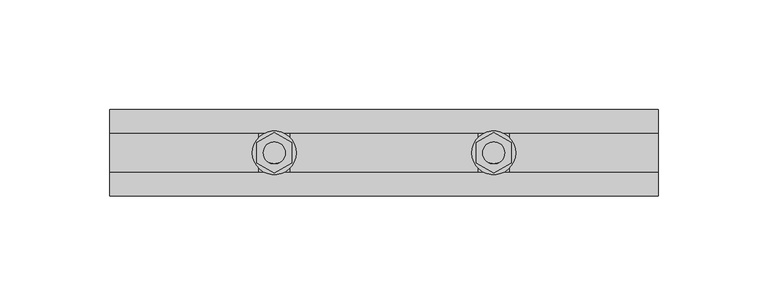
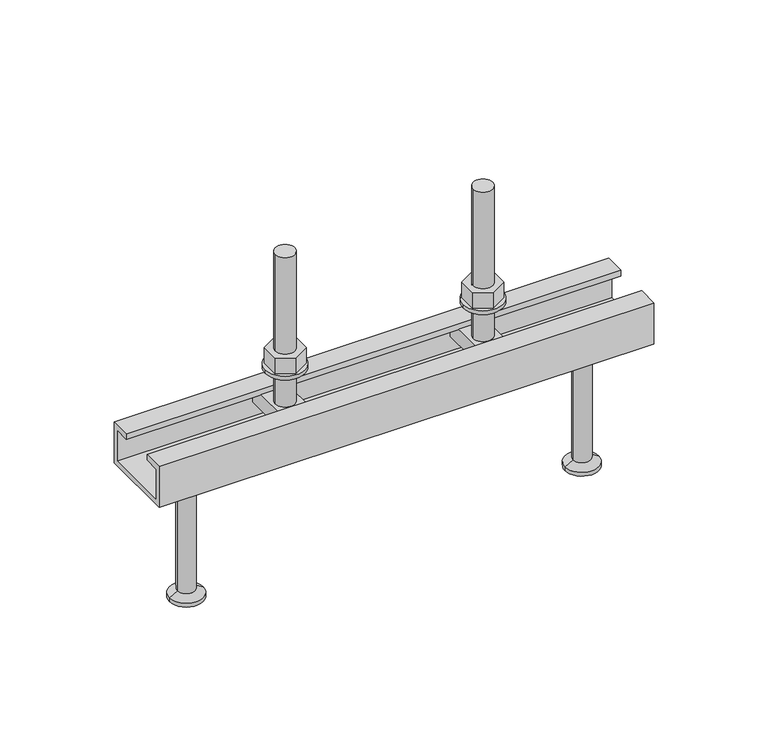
"""IFC4 building model written with IfcOpenShell, lengths in millimetres: fastener geometry, JTA-W JORDAHL® AnchorChannels : JTA-W L=250 mm."""

from ifc_helpers import new_model, si_unit, point, frame, frame_2d, origin, place, context, project, spatial, polyline, circle_curve, trimmed, segment, composite_curve, outline, extrude, source, transform, mapped, element, save
from ifc_brep_helpers import plane_surface, cylinder_surface, revolved_surface, advanced_brep


def fastener_1a17a586(model_context):
    return source(origin(), model_context, "Body", "SolidModel", [
        extrude(outline(polyline([(175.0, 9.2376043), (183.0, 4.6188022), (183.0, -4.6188022), (175.0, -9.2376043), (167.0, -4.6188022), (167.0, 4.6188022), (175.0, 9.2376043)]), holes=[composite_curve([segment(trimmed(circle_curve(frame_2d((175.0, 0.0)), 5.0), [point((170.0, 0.0))], [point((180.0, 0.0))], True, "CARTESIAN"), True, "CONTINUOUS"), segment(trimmed(circle_curve(frame_2d((175.0, 0.0)), 5.0), [point((180.0, 0.0))], [point((170.0, 0.0))], True, "CARTESIAN"), True, "CONTINUOUS")], self_intersect=False)]), frame((0.0, 0.0, 17.0), z_axis=(0.0, 0.0, 1.0), x_axis=(1.0, 0.0, 0.0)), (0.0, 0.0, 1.0), 8.4),
        extrude(outline(composite_curve([segment(trimmed(circle_curve(frame_2d((175.0, 0.0)), 10.0), [point((165.0, 0.0))], [point((185.0, 0.0))], False, "CARTESIAN"), True, "CONTINUOUS"), segment(trimmed(circle_curve(frame_2d((175.0, 0.0)), 10.0), [point((185.0, 0.0))], [point((165.0, 0.0))], False, "CARTESIAN"), True, "CONTINUOUS")], self_intersect=False), holes=[composite_curve([segment(trimmed(circle_curve(frame_2d((175.0, 0.0)), 5.25), [point((169.75, 0.0))], [point((180.25, 0.0))], True, "CARTESIAN"), True, "CONTINUOUS"), segment(trimmed(circle_curve(frame_2d((175.0, 0.0)), 5.25), [point((180.25, 0.0))], [point((169.75, 0.0))], True, "CARTESIAN"), True, "CONTINUOUS")], self_intersect=False)]), frame((0.0, 0.0, 15.0), z_axis=(0.0, 0.0, 1.0), x_axis=(1.0, 0.0, 0.0)), (0.0, 0.0, 1.0), 2.0),
        extrude(outline(polyline([(75.0, 9.2376043), (83.0, 4.6188022), (83.0, -4.6188022), (75.0, -9.2376043), (67.0, -4.6188022), (67.0, 4.6188022), (75.0, 9.2376043)]), holes=[composite_curve([segment(trimmed(circle_curve(frame_2d((75.0, 0.0)), 5.0), [point((70.0, 0.0))], [point((80.0, 0.0))], True, "CARTESIAN"), True, "CONTINUOUS"), segment(trimmed(circle_curve(frame_2d((75.0, 0.0)), 5.0), [point((80.0, 0.0))], [point((70.0, 0.0))], True, "CARTESIAN"), True, "CONTINUOUS")], self_intersect=False)]), frame((0.0, 0.0, 17.0), z_axis=(0.0, 0.0, 1.0), x_axis=(1.0, 0.0, 0.0)), (0.0, 0.0, 1.0), 8.4),
        extrude(outline(composite_curve([segment(trimmed(circle_curve(frame_2d((75.0, 0.0)), 10.0), [point((65.0, 0.0))], [point((85.0, 0.0))], False, "CARTESIAN"), True, "CONTINUOUS"), segment(trimmed(circle_curve(frame_2d((75.0, 0.0)), 10.0), [point((85.0, 0.0))], [point((65.0, 0.0))], False, "CARTESIAN"), True, "CONTINUOUS")], self_intersect=False), holes=[composite_curve([segment(trimmed(circle_curve(frame_2d((75.0, 0.0)), 5.25), [point((69.75, 0.0))], [point((80.25, 0.0))], True, "CARTESIAN"), True, "CONTINUOUS"), segment(trimmed(circle_curve(frame_2d((75.0, 0.0)), 5.25), [point((80.25, 0.0))], [point((69.75, 0.0))], True, "CARTESIAN"), True, "CONTINUOUS")], self_intersect=False)]), frame((0.0, 0.0, 15.0), z_axis=(0.0, 0.0, 1.0), x_axis=(1.0, 0.0, 0.0)), (0.0, 0.0, 1.0), 2.0),
        advanced_brep(
        [(182.0, 16.25, -3.0), (182.0, -16.25, -3.0), (182.0, -16.25, -11.0), (182.0, 16.25, -11.0), (168.0, 16.25, -3.0), (168.0, 16.25, -11.0), (168.0, -16.25, -11.0), (168.0, -16.25, -3.0), (180.0, 0.0, -3.0), (170.0, 0.0, -3.0), (170.0, 0.0, 77.0), (180.0, 0.0, 77.0)],
        [
            (0, 1),
            (1, 2),
            (2, 3),
            (3, 0),
            (4, 5),
            (5, 6),
            (6, 7),
            (7, 4),
            (0, 4),
            (7, 1),
            (8, 9, circle_curve(frame((175.0, 0.0, -3.0), z_axis=(0.0, 0.0, -1.0), x_axis=(1.0, 0.0, 0.0)), 5.0)),
            (9, 8, circle_curve(frame((175.0, 0.0, -3.0), z_axis=(0.0, 0.0, -1.0), x_axis=(1.0, 0.0, 0.0)), 5.0)),
            (6, 2),
            (5, 3),
            (10, 11, circle_curve(frame((175.0, 0.0, 77.0), z_axis=(0.0, 0.0, 1.0), x_axis=(1.0, 0.0, 0.0)), 5.0)),
            (11, 10, circle_curve(frame((175.0, 0.0, 77.0), z_axis=(0.0, 0.0, 1.0), x_axis=(1.0, 0.0, 0.0)), 5.0)),
            (10, 9),
            (8, 11),
        ],
        [
            plane_surface(frame((182.0, -16.25, -3.0), z_axis=(1.0, 0.0, 0.0), x_axis=(0.0, -1.0, 0.0))),
            plane_surface(frame((168.0, -16.25, -3.0), z_axis=(-1.0, 0.0, 0.0), x_axis=(0.0, 1.0, 0.0))),
            plane_surface(frame((182.0, 16.25, -3.0), z_axis=(0.0, 0.0, 1.0), x_axis=(-1.0, 0.0, 0.0))),
            plane_surface(frame((182.0, -16.25, -3.0), z_axis=(0.0, -1.0, 0.0), x_axis=(-1.0, 0.0, 0.0))),
            plane_surface(frame((182.0, -16.25, -11.0), z_axis=(0.0, 0.0, -1.0), x_axis=(-1.0, 0.0, 0.0))),
            plane_surface(frame((182.0, 16.25, -11.0), z_axis=(0.0, 1.0, 0.0), x_axis=(-1.0, 0.0, 0.0))),
            plane_surface(frame((180.0, 0.0, 77.0), z_axis=(0.0, 0.0, 1.0), x_axis=(0.0, 1.0, 0.0))),
            cylinder_surface(frame((175.0, 0.0, -3.0), z_axis=(0.0, 0.0, 1.0), x_axis=(1.0, 0.0, 0.0)), 5.0),
        ],
        [
            (0, [[1, 2, 3, 4]]),
            (1, [[5, 6, 7, 8]]),
            (2, [[-1, 9, -8, 10], [11, 12]]),
            (3, [[-2, -10, -7, 13]]),
            (4, [[-3, -13, -6, 14]]),
            (5, [[-4, -14, -5, -9]]),
            (6, [[15, 16]]),
            (7, [[-15, 17, -11, 18]]),
            (7, [[-16, -18, -12, -17]]),
        ],
    ),
        advanced_brep(
        [(82.0, 16.25, -3.0), (82.0, -16.25, -3.0), (82.0, -16.25, -11.0), (82.0, 16.25, -11.0), (68.0, 16.25, -3.0), (68.0, 16.25, -11.0), (68.0, -16.25, -11.0), (68.0, -16.25, -3.0), (80.0, 0.0, -3.0), (70.0, 0.0, -3.0), (70.0, 0.0, 77.0), (80.0, 0.0, 77.0)],
        [
            (0, 1),
            (1, 2),
            (2, 3),
            (3, 0),
            (4, 5),
            (5, 6),
            (6, 7),
            (7, 4),
            (0, 4),
            (7, 1),
            (8, 9, circle_curve(frame((75.0, 0.0, -3.0), z_axis=(0.0, 0.0, -1.0), x_axis=(1.0, 0.0, 0.0)), 5.0)),
            (9, 8, circle_curve(frame((75.0, 0.0, -3.0), z_axis=(0.0, 0.0, -1.0), x_axis=(1.0, 0.0, 0.0)), 5.0)),
            (6, 2),
            (5, 3),
            (10, 11, circle_curve(frame((75.0, 0.0, 77.0), z_axis=(0.0, 0.0, 1.0), x_axis=(1.0, 0.0, 0.0)), 5.0)),
            (11, 10, circle_curve(frame((75.0, 0.0, 77.0), z_axis=(0.0, 0.0, 1.0), x_axis=(1.0, 0.0, 0.0)), 5.0)),
            (10, 9),
            (8, 11),
        ],
        [
            plane_surface(frame((82.0, -16.25, -3.0), z_axis=(1.0, 0.0, 0.0), x_axis=(0.0, -1.0, 0.0))),
            plane_surface(frame((68.0, -16.25, -3.0), z_axis=(-1.0, 0.0, 0.0), x_axis=(0.0, 1.0, 0.0))),
            plane_surface(frame((82.0, 16.25, -3.0), z_axis=(0.0, 0.0, 1.0), x_axis=(-1.0, 0.0, 0.0))),
            plane_surface(frame((82.0, -16.25, -3.0), z_axis=(0.0, -1.0, 0.0), x_axis=(-1.0, 0.0, 0.0))),
            plane_surface(frame((82.0, -16.25, -11.0), z_axis=(0.0, 0.0, -1.0), x_axis=(-1.0, 0.0, 0.0))),
            plane_surface(frame((82.0, 16.25, -11.0), z_axis=(0.0, 1.0, 0.0), x_axis=(-1.0, 0.0, 0.0))),
            plane_surface(frame((80.0, 0.0, 77.0), z_axis=(0.0, 0.0, 1.0), x_axis=(0.0, 1.0, 0.0))),
            cylinder_surface(frame((75.0, 0.0, -3.0), z_axis=(0.0, 0.0, 1.0), x_axis=(1.0, 0.0, 0.0)), 5.0),
        ],
        [
            (0, [[1, 2, 3, 4]]),
            (1, [[5, 6, 7, 8]]),
            (2, [[-1, 9, -8, 10], [11, 12]]),
            (3, [[-2, -10, -7, 13]]),
            (4, [[-3, -13, -6, 14]]),
            (5, [[-4, -14, -5, -9]]),
            (6, [[15, 16]]),
            (7, [[-15, 17, -11, 18]]),
            (7, [[-16, -18, -12, -17]]),
        ],
    ),
        advanced_brep(
        [(225.0, 0.0, -22.0), (238.5, 0.0, -22.0), (211.5, 0.0, -22.0), (216.5, 0.0, -90.0), (233.5, 0.0, -90.0), (225.0, 0.0, -90.0), (216.5, 0.0, -88.0), (233.5, 0.0, -88.0), (220.5, 0.0, -85.6905989), (229.5, 0.0, -85.6905989), (220.5, 0.0, -24.5), (229.5, 0.0, -24.5)],
        [
            (0, 1),
            (1, 2, circle_curve(frame((225.0, 0.0, -22.0), z_axis=(0.0, 0.0, 1.0), x_axis=(1.0, 0.0, 0.0)), 13.5)),
            (2, 0),
            (2, 1, circle_curve(frame((225.0, 0.0, -22.0), z_axis=(0.0, 0.0, 1.0), x_axis=(1.0, 0.0, 0.0)), 13.5)),
            (3, 4, circle_curve(frame((225.0, 0.0, -90.0), z_axis=(0.0, 0.0, -1.0), x_axis=(1.0, 0.0, 0.0)), 8.5)),
            (4, 5),
            (5, 3),
            (4, 3, circle_curve(frame((225.0, 0.0, -90.0), z_axis=(0.0, 0.0, -1.0), x_axis=(1.0, 0.0, 0.0)), 8.5)),
            (6, 7, circle_curve(frame((225.0, 0.0, -88.0), z_axis=(0.0, 0.0, -1.0), x_axis=(1.0, 0.0, 0.0)), 8.5)),
            (7, 4),
            (3, 6),
            (7, 6, circle_curve(frame((225.0, 0.0, -88.0), z_axis=(0.0, 0.0, -1.0), x_axis=(1.0, 0.0, 0.0)), 8.5)),
            (8, 9, circle_curve(frame((225.0, 0.0, -85.6905989), z_axis=(0.0, 0.0, -1.0), x_axis=(1.0, 0.0, 0.0)), 4.5)),
            (9, 7),
            (6, 8),
            (9, 8, circle_curve(frame((225.0, 0.0, -85.6905989), z_axis=(0.0, 0.0, -1.0), x_axis=(1.0, 0.0, 0.0)), 4.5)),
            (10, 11, circle_curve(frame((225.0, 0.0, -24.5), z_axis=(0.0, 0.0, -1.0), x_axis=(1.0, 0.0, 0.0)), 4.5)),
            (11, 9),
            (8, 10),
            (11, 10, circle_curve(frame((225.0, 0.0, -24.5), z_axis=(0.0, 0.0, -1.0), x_axis=(1.0, 0.0, 0.0)), 4.5)),
            (1, 11),
            (10, 2),
        ],
        [
            plane_surface(frame((225.0, 0.0, -22.0), z_axis=(0.0, 0.0, 1.0), x_axis=(1.0, 0.0, 0.0))),
            plane_surface(frame((225.0, 0.0, -90.0), z_axis=(0.0, 0.0, -1.0), x_axis=(1.0, 0.0, 0.0))),
            cylinder_surface(frame((225.0, 0.0, 2282.3150031), z_axis=(0.0, 0.0, 1.0), x_axis=(1.0, 0.0, 0.0)), 8.5),
            revolved_surface(polyline([(233.5, 0.0, -88.0), (229.5, 0.0, -85.6905989)]), (225.0, 0.0, 2282.3150031), (0.0, 0.0, 1.0)),
            cylinder_surface(frame((225.0, 0.0, 2282.3150031), z_axis=(0.0, 0.0, 1.0), x_axis=(1.0, 0.0, 0.0)), 4.5),
            revolved_surface(polyline([(229.5, 0.0, -24.5), (238.5, 0.0, -22.0)]), (225.0, 0.0, 2282.3150031), (0.0, 0.0, 1.0)),
        ],
        [
            (0, [[1, 2, 3]]),
            (0, [[-3, 4, -1]]),
            (1, [[5, 6, 7]]),
            (1, [[8, -7, -6]]),
            (2, [[9, 10, -5, 11]]),
            (2, [[12, -11, -8, -10]]),
            (3, [[13, 14, -9, 15]]),
            (3, [[16, -15, -12, -14]]),
            (4, [[17, 18, -13, 19]]),
            (4, [[20, -19, -16, -18]]),
            (5, [[-2, 21, -17, 22]]),
            (5, [[-4, -22, -20, -21]]),
        ],
    ),
        advanced_brep(
        [(25.0, 0.0, -22.0), (38.5, 0.0, -22.0), (11.5, 0.0, -22.0), (16.5, 0.0, -90.0), (33.5, 0.0, -90.0), (25.0, 0.0, -90.0), (16.5, 0.0, -88.0), (33.5, 0.0, -88.0), (20.5, 0.0, -85.6905989), (29.5, 0.0, -85.6905989), (20.5, 0.0, -24.5), (29.5, 0.0, -24.5)],
        [
            (0, 1),
            (1, 2, circle_curve(frame((25.0, 0.0, -22.0), z_axis=(0.0, 0.0, 1.0), x_axis=(1.0, 0.0, 0.0)), 13.5)),
            (2, 0),
            (2, 1, circle_curve(frame((25.0, 0.0, -22.0), z_axis=(0.0, 0.0, 1.0), x_axis=(1.0, 0.0, 0.0)), 13.5)),
            (3, 4, circle_curve(frame((25.0, 0.0, -90.0), z_axis=(0.0, 0.0, -1.0), x_axis=(1.0, 0.0, 0.0)), 8.5)),
            (4, 5),
            (5, 3),
            (4, 3, circle_curve(frame((25.0, 0.0, -90.0), z_axis=(0.0, 0.0, -1.0), x_axis=(1.0, 0.0, 0.0)), 8.5)),
            (6, 7, circle_curve(frame((25.0, 0.0, -88.0), z_axis=(0.0, 0.0, -1.0), x_axis=(1.0, 0.0, 0.0)), 8.5)),
            (7, 4),
            (3, 6),
            (7, 6, circle_curve(frame((25.0, 0.0, -88.0), z_axis=(0.0, 0.0, -1.0), x_axis=(1.0, 0.0, 0.0)), 8.5)),
            (8, 9, circle_curve(frame((25.0, 0.0, -85.6905989), z_axis=(0.0, 0.0, -1.0), x_axis=(1.0, 0.0, 0.0)), 4.5)),
            (9, 7),
            (6, 8),
            (9, 8, circle_curve(frame((25.0, 0.0, -85.6905989), z_axis=(0.0, 0.0, -1.0), x_axis=(1.0, 0.0, 0.0)), 4.5)),
            (10, 11, circle_curve(frame((25.0, 0.0, -24.5), z_axis=(0.0, 0.0, -1.0), x_axis=(1.0, 0.0, 0.0)), 4.5)),
            (11, 9),
            (8, 10),
            (11, 10, circle_curve(frame((25.0, 0.0, -24.5), z_axis=(0.0, 0.0, -1.0), x_axis=(1.0, 0.0, 0.0)), 4.5)),
            (1, 11),
            (10, 2),
        ],
        [
            plane_surface(frame((25.0, 0.0, -22.0), z_axis=(0.0, 0.0, 1.0), x_axis=(1.0, 0.0, 0.0))),
            plane_surface(frame((25.0, 0.0, -90.0), z_axis=(0.0, 0.0, -1.0), x_axis=(1.0, 0.0, 0.0))),
            cylinder_surface(frame((25.0, 0.0, 2282.3150031), z_axis=(0.0, 0.0, 1.0), x_axis=(1.0, 0.0, 0.0)), 8.5),
            revolved_surface(polyline([(33.5, 0.0, -88.0), (29.5, 0.0, -85.6905989)]), (25.0, 0.0, 2282.3150031), (0.0, 0.0, 1.0)),
            cylinder_surface(frame((25.0, 0.0, 2282.3150031), z_axis=(0.0, 0.0, 1.0), x_axis=(1.0, 0.0, 0.0)), 4.5),
            revolved_surface(polyline([(29.5, 0.0, -24.5), (38.5, 0.0, -22.0)]), (25.0, 0.0, 2282.3150031), (0.0, 0.0, 1.0)),
        ],
        [
            (0, [[1, 2, 3]]),
            (0, [[-3, 4, -1]]),
            (1, [[5, 6, 7]]),
            (1, [[8, -7, -6]]),
            (2, [[9, 10, -5, 11]]),
            (2, [[12, -11, -8, -10]]),
            (3, [[13, 14, -9, 15]]),
            (3, [[16, -15, -12, -14]]),
            (4, [[17, 18, -13, 19]]),
            (4, [[20, -19, -16, -18]]),
            (5, [[-2, 21, -17, 22]]),
            (5, [[-4, -22, -20, -21]]),
        ],
    ),
        extrude(outline(polyline([(19.75, 0.0), (19.75, -22.0), (-19.75, -22.0), (-19.75, 0.0), (-9.0, 0.0), (-9.0, -3.0), (-17.25, -3.0), (-17.25, -19.5), (17.25, -19.5), (17.25, -3.0), (9.0, -3.0), (9.0, 0.0), (19.75, 0.0)])), frame((0.0, 0.0, 0.0), z_axis=(1.0, 0.0, 0.0), x_axis=(0.0, 1.0, 0.0)), (0.0, 0.0, 1.0), 250.0),
    ])


if __name__ == "__main__":
    model = new_model("IFC4")
    model_context = context("Model", 3, world=origin())
    ifc_project = project(units=[si_unit("LENGTHUNIT", "METRE", prefix="MILLI")], contexts=[model_context])
    site = spatial("IfcSite", under=ifc_project)
    building = spatial("IfcBuilding", under=site)
    placement = place(None, origin())
    fastener_shape = fastener_1a17a586(model_context)
    element("IfcFastener", 1, ObjectType="JTA-W JORDAHL® AnchorChannels : JTA-W L=250 mm", at=placement, inside=building, context=model_context, shape_type="MappedRepresentation", body=[
        mapped(fastener_shape, transform((0.0, 0.0, 0.0), x_axis=(1.0, 0.0, 0.0), y_axis=(0.0, 1.0, 0.0), z_axis=(0.0, 0.0, 1.0))),
    ])
    save(model, "model.ifc")
